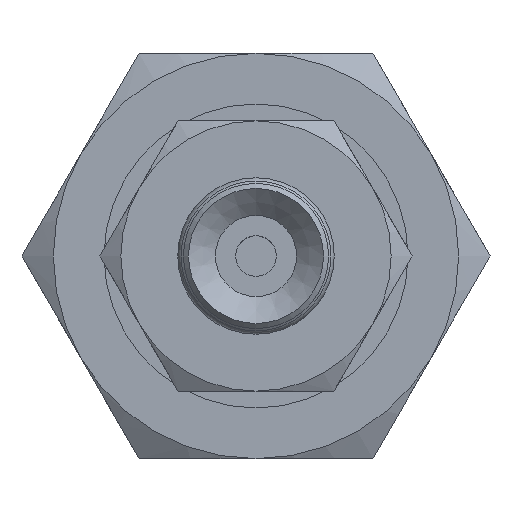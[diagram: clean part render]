
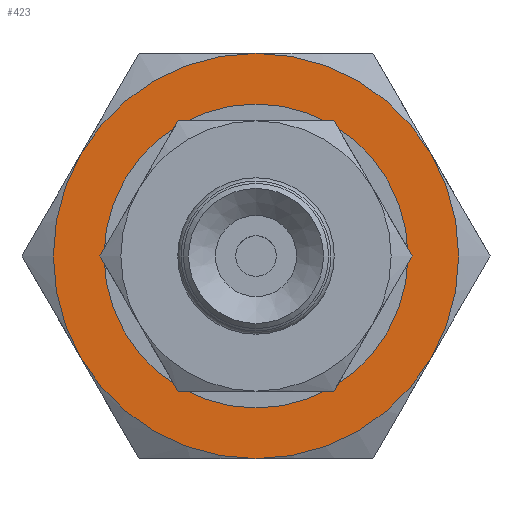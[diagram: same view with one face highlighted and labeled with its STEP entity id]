
A CAD part, front view. The second image highlights one B-rep face of the part: STEP entity #423.
In plain terms, the highlighted planar face has unit normal (0, -1, 0) as drawn and (-1, 0, 0) by its records, which use the part's own axes.
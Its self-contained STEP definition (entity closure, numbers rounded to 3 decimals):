
#423=ADVANCED_FACE('',(#576,#577),#578,.F.);
#576=FACE_BOUND('',#864,.T.);
#577=FACE_OUTER_BOUND('',#865,.T.);
#578=PLANE('',#866);
#864=EDGE_LOOP('',(#1274));
#865=EDGE_LOOP('',(#1275,#1276,#1277,#1278,#1279,#1280));
#866=AXIS2_PLACEMENT_3D('',#1281,#1282,#1283);
#1274=ORIENTED_EDGE('',*,*,#1929,.T.);
#1275=ORIENTED_EDGE('',*,*,#1901,.F.);
#1276=ORIENTED_EDGE('',*,*,#1935,.F.);
#1277=ORIENTED_EDGE('',*,*,#1892,.F.);
#1278=ORIENTED_EDGE('',*,*,#1908,.F.);
#1279=ORIENTED_EDGE('',*,*,#1936,.F.);
#1280=ORIENTED_EDGE('',*,*,#1937,.F.);
#1281=CARTESIAN_POINT('',(0.,0.0,0.0));
#1282=DIRECTION('',(1.0,0.0,0.0));
#1283=DIRECTION('',(0.0,1.0,0.0));
#1892=EDGE_CURVE('',#2122,#2123,#2124,.T.);
#1901=EDGE_CURVE('',#2138,#2140,#2141,.T.);
#1908=EDGE_CURVE('',#2152,#2122,#2153,.T.);
#1929=EDGE_CURVE('',#2186,#2186,#2187,.T.);
#1935=EDGE_CURVE('',#2123,#2138,#2193,.T.);
#1936=EDGE_CURVE('',#2177,#2152,#2194,.T.);
#1937=EDGE_CURVE('',#2140,#2177,#2195,.T.);
#2122=VERTEX_POINT('',#2504);
#2123=VERTEX_POINT('',#2505);
#2124=CIRCLE('',#2506,6.0);
#2138=VERTEX_POINT('',#2572);
#2140=VERTEX_POINT('',#2584);
#2141=CIRCLE('',#2585,6.0);
#2152=VERTEX_POINT('',#2638);
#2153=CIRCLE('',#2639,6.0);
#2177=VERTEX_POINT('',#2785);
#2186=VERTEX_POINT('',#2814);
#2187=CIRCLE('',#2815,4.0);
#2193=CIRCLE('',#2821,6.0);
#2194=CIRCLE('',#2822,6.0);
#2195=CIRCLE('',#2823,6.0);
#2504=CARTESIAN_POINT('',(0.,-5.196,-3.0));
#2505=CARTESIAN_POINT('',(0.,0.0,-6.0));
#2506=AXIS2_PLACEMENT_3D('',#3270,#3271,#3272);
#2572=CARTESIAN_POINT('',(0.,5.196,-3.0));
#2584=CARTESIAN_POINT('',(0.,5.196,3.0));
#2585=AXIS2_PLACEMENT_3D('',#3275,#3276,#3277);
#2638=CARTESIAN_POINT('',(0.,-5.196,3.0));
#2639=AXIS2_PLACEMENT_3D('',#3280,#3281,#3282);
#2785=CARTESIAN_POINT('',(0.,0.0,6.0));
#2814=CARTESIAN_POINT('',(0.,0.0,-4.0));
#2815=AXIS2_PLACEMENT_3D('',#3297,#3298,#3299);
#2821=AXIS2_PLACEMENT_3D('',#3315,#3316,#3317);
#2822=AXIS2_PLACEMENT_3D('',#3318,#3319,#3320);
#2823=AXIS2_PLACEMENT_3D('',#3321,#3322,#3323);
#3270=CARTESIAN_POINT('',(0.,0.0,0.0));
#3271=DIRECTION('',(1.0,0.0,0.0));
#3272=DIRECTION('',(0.0,0.0,-1.0));
#3275=CARTESIAN_POINT('',(0.,0.0,0.0));
#3276=DIRECTION('',(1.0,0.0,0.0));
#3277=DIRECTION('',(0.0,0.0,-1.0));
#3280=CARTESIAN_POINT('',(0.,0.0,0.0));
#3281=DIRECTION('',(1.0,0.0,0.0));
#3282=DIRECTION('',(0.0,0.0,-1.0));
#3297=CARTESIAN_POINT('',(0.,0.0,0.0));
#3298=DIRECTION('',(1.0,0.0,0.0));
#3299=DIRECTION('',(0.0,0.0,-1.0));
#3315=CARTESIAN_POINT('',(0.,0.0,0.0));
#3316=DIRECTION('',(1.0,0.0,0.0));
#3317=DIRECTION('',(0.0,0.0,-1.0));
#3318=CARTESIAN_POINT('',(0.,0.0,0.0));
#3319=DIRECTION('',(1.0,0.0,0.0));
#3320=DIRECTION('',(0.0,0.0,-1.0));
#3321=CARTESIAN_POINT('',(0.,0.0,0.0));
#3322=DIRECTION('',(1.0,0.0,0.0));
#3323=DIRECTION('',(0.0,0.0,-1.0));
